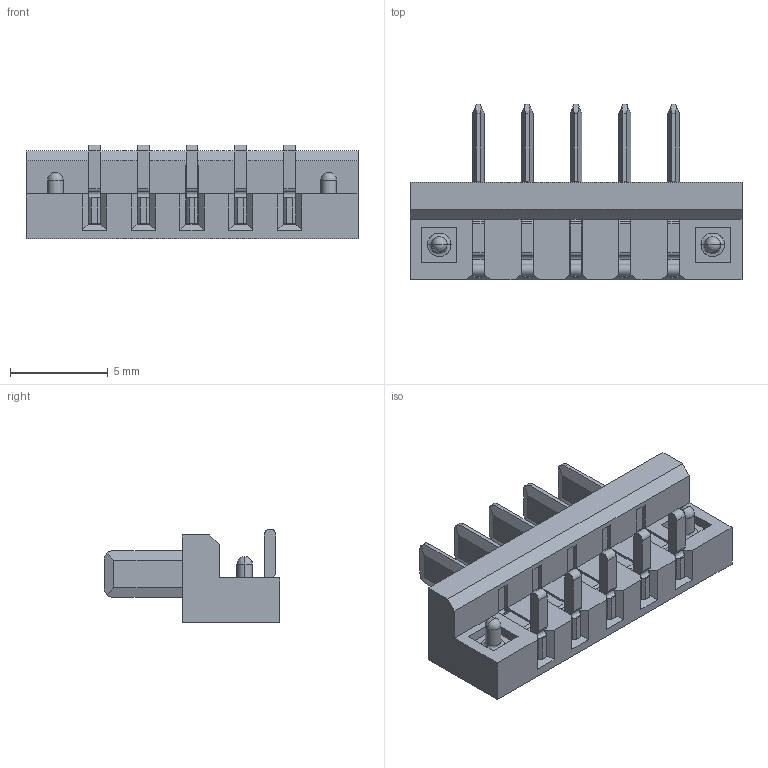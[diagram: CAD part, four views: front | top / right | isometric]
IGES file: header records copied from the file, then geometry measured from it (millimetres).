
Start section: SolidWorks IGES file using analytic representation for surfaces
Global section: file name: C:\Users\hsuan\Desktop\°õ¦æ§@·~\RFQ³æ\2026¦~\6¤ë\RB126060101\TSB1-02150-0DXXA[3D].IGS; native system: SolidWorks 2022; preprocessor: SolidWorks 2022; author: hsuan; date: 260623.102724; units: millimetre
Bounding box: 17 x 9 x 4.8 mm (x, y, z)
Surface area: 727.3 mm2 (no closed solid volume)
Topology: 0 solids, 0 shells, 326 faces, 2480 edges, 2476 vertices
Faces by surface type: bspline 208, revolution 118
